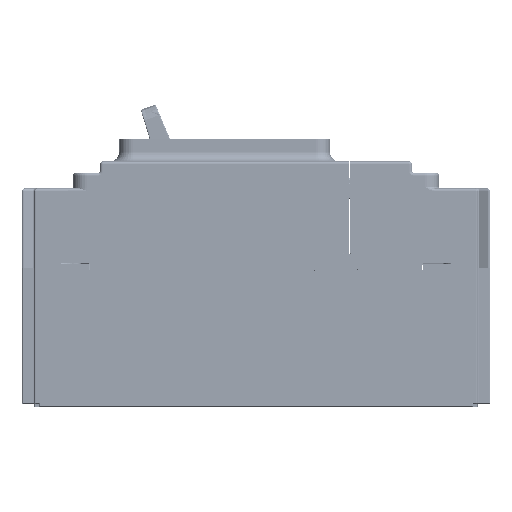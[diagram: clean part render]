
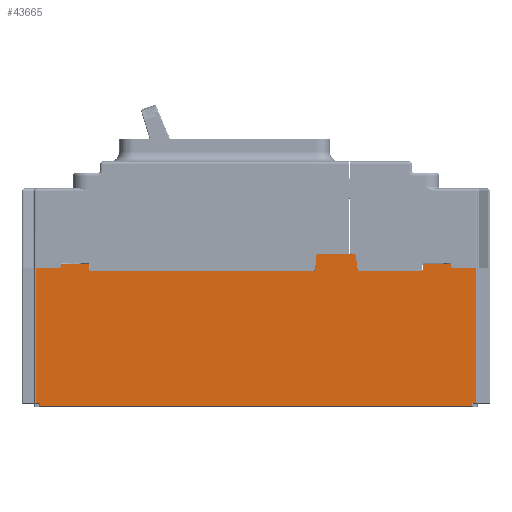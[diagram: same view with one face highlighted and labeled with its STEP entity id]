
A CAD part, top view. The second image highlights one B-rep face of the part: STEP entity #43665.
In plain terms, the highlighted planar face has unit normal (0, 0, 1).
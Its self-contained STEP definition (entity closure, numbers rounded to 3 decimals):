
#5260=DIRECTION('',(1.,0.,0.));
#5261=VECTOR('',#5260,22.7);
#5262=CARTESIAN_POINT('',(35.8,0.,52.5));
#5263=LINE('',#5262,#5261);
#5288=DIRECTION('',(1.,0.,0.));
#5289=VECTOR('',#5288,79.3);
#5290=CARTESIAN_POINT('',(-58.5,0.,52.5));
#5291=LINE('',#5290,#5289);
#5430=DIRECTION('',(1.,0.,0.));
#5431=VECTOR('',#5430,9.4);
#5432=CARTESIAN_POINT('',(59.1,2.5,52.5));
#5433=LINE('',#5432,#5431);
#5861=DIRECTION('',(1.,0.,0.));
#5862=VECTOR('',#5861,9.4);
#5863=CARTESIAN_POINT('',(-68.5,2.5,52.5));
#5864=LINE('',#5863,#5862);
#10902=DIRECTION('',(-1.,0.,0.));
#10903=VECTOR('',#10902,1.7);
#10904=CARTESIAN_POINT('',(77.7,-46.6,52.5));
#10905=LINE('',#10904,#10903);
#10906=DIRECTION('',(-1.,0.,0.));
#10907=VECTOR('',#10906,152.);
#10908=CARTESIAN_POINT('',(76.,-47.7,52.5));
#10909=LINE('',#10908,#10907);
#10910=DIRECTION('',(1.,0.,0.));
#10911=VECTOR('',#10910,1.7);
#10912=CARTESIAN_POINT('',(-77.7,-46.6,52.5));
#10913=LINE('',#10912,#10911);
#10914=DIRECTION('',(0.,-1.,0.));
#10915=VECTOR('',#10914,47.6);
#10916=CARTESIAN_POINT('',(-77.7,1.,52.5));
#10917=LINE('',#10916,#10915);
#10918=DIRECTION('',(0.,1.,0.));
#10919=VECTOR('',#10918,0.9);
#10920=CARTESIAN_POINT('',(-68.8,1.3,52.5));
#10921=LINE('',#10920,#10919);
#10922=DIRECTION('',(-0.707,-0.707,0.));
#10923=VECTOR('',#10922,0.424);
#10924=CARTESIAN_POINT('',(-68.5,2.5,52.5));
#10925=LINE('',#10924,#10923);
#10926=DIRECTION('',(-0.707,0.707,0.));
#10927=VECTOR('',#10926,0.424);
#10928=CARTESIAN_POINT('',(-58.8,2.2,52.5));
#10929=LINE('',#10928,#10927);
#10930=DIRECTION('',(-0.087,-0.996,0.));
#10931=VECTOR('',#10930,5.107);
#10932=CARTESIAN_POINT('',(21.245,5.087,52.5));
#10933=LINE('',#10932,#10931);
#10934=CARTESIAN_POINT('',(22.241,5.,52.5));
#10935=DIRECTION('',(0.,0.,1.));
#10936=DIRECTION('',(0.,1.,0.));
#10937=AXIS2_PLACEMENT_3D('',#10934,#10935,#10936);
#10939=DIRECTION('',(-1.,0.,0.));
#10940=VECTOR('',#10939,12.028);
#10941=CARTESIAN_POINT('',(34.269,6.,52.5));
#10942=LINE('',#10941,#10940);
#10943=CARTESIAN_POINT('',(34.269,5.,52.5));
#10944=DIRECTION('',(0.,0.,1.));
#10945=DIRECTION('',(0.995,0.105,0.));
#10946=AXIS2_PLACEMENT_3D('',#10943,#10944,#10945);
#10948=DIRECTION('',(-0.105,0.995,0.));
#10949=VECTOR('',#10948,5.133);
#10950=CARTESIAN_POINT('',(35.8,0.,52.5));
#10951=LINE('',#10950,#10949);
#10952=DIRECTION('',(0.,1.,0.));
#10953=VECTOR('',#10952,1.9);
#10954=CARTESIAN_POINT('',(58.8,0.3,52.5));
#10955=LINE('',#10954,#10953);
#10956=DIRECTION('',(-0.707,-0.707,0.));
#10957=VECTOR('',#10956,0.424);
#10958=CARTESIAN_POINT('',(59.1,2.5,52.5));
#10959=LINE('',#10958,#10957);
#10960=DIRECTION('',(-0.707,0.707,0.));
#10961=VECTOR('',#10960,0.424);
#10962=CARTESIAN_POINT('',(68.8,2.2,52.5));
#10963=LINE('',#10962,#10961);
#10964=DIRECTION('',(0.,-1.,0.));
#10965=VECTOR('',#10964,47.6);
#10966=CARTESIAN_POINT('',(77.7,1.,52.5));
#10967=LINE('',#10966,#10965);
#10968=DIRECTION('',(0.,1.,0.));
#10969=VECTOR('',#10968,1.1);
#10970=CARTESIAN_POINT('',(76.,-47.7,52.5));
#10971=LINE('',#10970,#10969);
#11055=DIRECTION('',(0.,-1.,0.));
#11056=VECTOR('',#11055,1.1);
#11057=CARTESIAN_POINT('',(-76.,-46.6,52.5));
#11058=LINE('',#11057,#11056);
#13783=DIRECTION('',(1.,0.,0.));
#13784=VECTOR('',#13783,8.6);
#13785=CARTESIAN_POINT('',(-77.7,1.,52.5));
#13786=LINE('',#13785,#13784);
#13895=DIRECTION('',(1.,0.,0.));
#13896=VECTOR('',#13895,8.6);
#13897=CARTESIAN_POINT('',(69.1,1.,52.5));
#13898=LINE('',#13897,#13896);
#13899=DIRECTION('',(-0.707,-0.707,0.));
#13900=VECTOR('',#13899,0.424);
#13901=CARTESIAN_POINT('',(-68.8,1.3,52.5));
#13902=LINE('',#13901,#13900);
#14157=DIRECTION('',(-0.707,0.707,0.));
#14158=VECTOR('',#14157,0.424);
#14159=CARTESIAN_POINT('',(69.1,1.,52.5));
#14160=LINE('',#14159,#14158);
#14169=DIRECTION('',(0.,1.,0.));
#14170=VECTOR('',#14169,0.9);
#14171=CARTESIAN_POINT('',(68.8,1.3,52.5));
#14172=LINE('',#14171,#14170);
#18410=DIRECTION('',(-0.707,0.707,0.));
#18411=VECTOR('',#18410,0.424);
#18412=CARTESIAN_POINT('',(-58.5,0.,52.5));
#18413=LINE('',#18412,#18411);
#18426=DIRECTION('',(0.,1.,0.));
#18427=VECTOR('',#18426,1.9);
#18428=CARTESIAN_POINT('',(-58.8,0.3,52.5));
#18429=LINE('',#18428,#18427);
#18450=DIRECTION('',(-0.707,-0.707,0.));
#18451=VECTOR('',#18450,0.424);
#18452=CARTESIAN_POINT('',(58.8,0.3,52.5));
#18453=LINE('',#18452,#18451);
#23897=CARTESIAN_POINT('',(20.8,0.,52.5));
#23899=VERTEX_POINT('',#23897);
#23901=CARTESIAN_POINT('',(35.8,0.,52.5));
#23903=VERTEX_POINT('',#23901);
#23931=CARTESIAN_POINT('',(22.241,6.,52.5));
#23932=VERTEX_POINT('',#23931);
#23933=CARTESIAN_POINT('',(21.245,5.087,52.5));
#23934=VERTEX_POINT('',#23933);
#23937=CARTESIAN_POINT('',(35.263,5.105,52.5));
#23938=VERTEX_POINT('',#23937);
#23939=CARTESIAN_POINT('',(34.269,6.,52.5));
#23940=VERTEX_POINT('',#23939);
#24489=CARTESIAN_POINT('',(-68.5,2.5,52.5));
#24490=CARTESIAN_POINT('',(-68.8,2.2,52.5));
#24491=VERTEX_POINT('',#24489);
#24492=VERTEX_POINT('',#24490);
#24513=CARTESIAN_POINT('',(-58.8,2.2,52.5));
#24514=VERTEX_POINT('',#24513);
#24515=CARTESIAN_POINT('',(-59.1,2.5,52.5));
#24516=VERTEX_POINT('',#24515);
#24561=CARTESIAN_POINT('',(68.8,2.2,52.5));
#24562=CARTESIAN_POINT('',(68.5,2.5,52.5));
#24563=VERTEX_POINT('',#24561);
#24564=VERTEX_POINT('',#24562);
#24565=CARTESIAN_POINT('',(59.1,2.5,52.5));
#24566=CARTESIAN_POINT('',(58.8,2.2,52.5));
#24567=VERTEX_POINT('',#24565);
#24568=VERTEX_POINT('',#24566);
#26168=CARTESIAN_POINT('',(-76.,-47.7,52.5));
#26169=VERTEX_POINT('',#26168);
#26174=CARTESIAN_POINT('',(76.,-47.7,52.5));
#26175=VERTEX_POINT('',#26174);
#26424=CARTESIAN_POINT('',(77.7,-46.6,52.5));
#26425=CARTESIAN_POINT('',(76.,-46.6,52.5));
#26426=VERTEX_POINT('',#26424);
#26427=VERTEX_POINT('',#26425);
#26774=CARTESIAN_POINT('',(-77.7,-46.6,52.5));
#26775=CARTESIAN_POINT('',(-76.,-46.6,52.5));
#26776=VERTEX_POINT('',#26774);
#26777=VERTEX_POINT('',#26775);
#26812=CARTESIAN_POINT('',(-77.7,1.,52.5));
#26813=VERTEX_POINT('',#26812);
#27406=CARTESIAN_POINT('',(-58.8,0.3,52.5));
#27408=VERTEX_POINT('',#27406);
#27411=CARTESIAN_POINT('',(58.8,0.3,52.5));
#27413=VERTEX_POINT('',#27411);
#27418=CARTESIAN_POINT('',(-58.5,0.,52.5));
#27419=VERTEX_POINT('',#27418);
#27420=CARTESIAN_POINT('',(58.5,0.,52.5));
#27421=VERTEX_POINT('',#27420);
#27426=CARTESIAN_POINT('',(69.1,1.,52.5));
#27427=CARTESIAN_POINT('',(68.8,1.3,52.5));
#27428=VERTEX_POINT('',#27426);
#27429=VERTEX_POINT('',#27427);
#27434=CARTESIAN_POINT('',(-68.8,1.3,52.5));
#27435=CARTESIAN_POINT('',(-69.1,1.,52.5));
#27436=VERTEX_POINT('',#27434);
#27437=VERTEX_POINT('',#27435);
#27672=CARTESIAN_POINT('',(77.7,1.,52.5));
#27673=VERTEX_POINT('',#27672);
#43603=CARTESIAN_POINT('',(-82.5,0.,52.5));
#43604=DIRECTION('',(0.,0.,1.));
#43605=DIRECTION('',(1.,0.,0.));
#43606=AXIS2_PLACEMENT_3D('',#43603,#43604,#43605);
#43607=PLANE('',#43606);
#43608=ORIENTED_EDGE('',*,*,#43594,.T.);
#43610=ORIENTED_EDGE('',*,*,#43609,.F.);
#43612=ORIENTED_EDGE('',*,*,#43611,.T.);
#43614=ORIENTED_EDGE('',*,*,#43613,.F.);
#43616=ORIENTED_EDGE('',*,*,#43615,.F.);
#43618=ORIENTED_EDGE('',*,*,#43617,.F.);
#43620=ORIENTED_EDGE('',*,*,#43619,.T.);
#43622=ORIENTED_EDGE('',*,*,#43621,.F.);
#43624=ORIENTED_EDGE('',*,*,#43623,.T.);
#43626=ORIENTED_EDGE('',*,*,#43625,.F.);
#43627=ORIENTED_EDGE('',*,*,#37495,.T.);
#43629=ORIENTED_EDGE('',*,*,#43628,.F.);
#43631=ORIENTED_EDGE('',*,*,#43630,.F.);
#43633=ORIENTED_EDGE('',*,*,#43632,.F.);
#43634=ORIENTED_EDGE('',*,*,#37027,.T.);
#43636=ORIENTED_EDGE('',*,*,#43635,.F.);
#43638=ORIENTED_EDGE('',*,*,#43637,.F.);
#43640=ORIENTED_EDGE('',*,*,#43639,.F.);
#43642=ORIENTED_EDGE('',*,*,#43641,.F.);
#43644=ORIENTED_EDGE('',*,*,#43643,.F.);
#43645=ORIENTED_EDGE('',*,*,#37011,.T.);
#43647=ORIENTED_EDGE('',*,*,#43646,.F.);
#43649=ORIENTED_EDGE('',*,*,#43648,.T.);
#43651=ORIENTED_EDGE('',*,*,#43650,.F.);
#43652=ORIENTED_EDGE('',*,*,#37228,.T.);
#43654=ORIENTED_EDGE('',*,*,#43653,.F.);
#43656=ORIENTED_EDGE('',*,*,#43655,.F.);
#43658=ORIENTED_EDGE('',*,*,#43657,.F.);
#43660=ORIENTED_EDGE('',*,*,#43659,.T.);
#43662=ORIENTED_EDGE('',*,*,#43661,.T.);
#43663=EDGE_LOOP('',(#43608,#43610,#43612,#43614,#43616,#43618,#43620,#43622,
#43624,#43626,#43627,#43629,#43631,#43633,#43634,#43636,#43638,#43640,#43642,
#43644,#43645,#43647,#43649,#43651,#43652,#43654,#43656,#43658,#43660,#43662));
#43664=FACE_OUTER_BOUND('',#43663,.F.);
#43665=ADVANCED_FACE('',(#43664),#43607,.T.);
#10938=CIRCLE('',#10937,1.);
#10947=CIRCLE('',#10946,1.);
#37011=EDGE_CURVE('',#23903,#27421,#5263,.T.);
#37027=EDGE_CURVE('',#27419,#23899,#5291,.T.);
#37228=EDGE_CURVE('',#24567,#24564,#5433,.T.);
#37495=EDGE_CURVE('',#24491,#24516,#5864,.T.);
#43594=EDGE_CURVE('',#26426,#26427,#10905,.T.);
#43609=EDGE_CURVE('',#26175,#26427,#10971,.T.);
#43611=EDGE_CURVE('',#26175,#26169,#10909,.T.);
#43613=EDGE_CURVE('',#26777,#26169,#11058,.T.);
#43615=EDGE_CURVE('',#26776,#26777,#10913,.T.);
#43617=EDGE_CURVE('',#26813,#26776,#10917,.T.);
#43619=EDGE_CURVE('',#26813,#27437,#13786,.T.);
#43621=EDGE_CURVE('',#27436,#27437,#13902,.T.);
#43623=EDGE_CURVE('',#27436,#24492,#10921,.T.);
#43625=EDGE_CURVE('',#24491,#24492,#10925,.T.);
#43628=EDGE_CURVE('',#24514,#24516,#10929,.T.);
#43630=EDGE_CURVE('',#27408,#24514,#18429,.T.);
#43632=EDGE_CURVE('',#27419,#27408,#18413,.T.);
#43635=EDGE_CURVE('',#23934,#23899,#10933,.T.);
#43637=EDGE_CURVE('',#23932,#23934,#10938,.T.);
#43639=EDGE_CURVE('',#23940,#23932,#10942,.T.);
#43641=EDGE_CURVE('',#23938,#23940,#10947,.T.);
#43643=EDGE_CURVE('',#23903,#23938,#10951,.T.);
#43646=EDGE_CURVE('',#27413,#27421,#18453,.T.);
#43648=EDGE_CURVE('',#27413,#24568,#10955,.T.);
#43650=EDGE_CURVE('',#24567,#24568,#10959,.T.);
#43653=EDGE_CURVE('',#24563,#24564,#10963,.T.);
#43655=EDGE_CURVE('',#27429,#24563,#14172,.T.);
#43657=EDGE_CURVE('',#27428,#27429,#14160,.T.);
#43659=EDGE_CURVE('',#27428,#27673,#13898,.T.);
#43661=EDGE_CURVE('',#27673,#26426,#10967,.T.);
